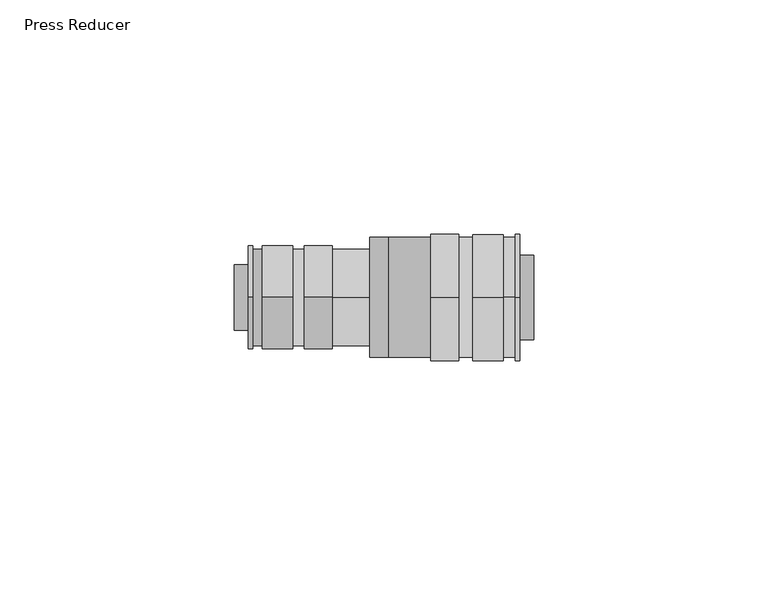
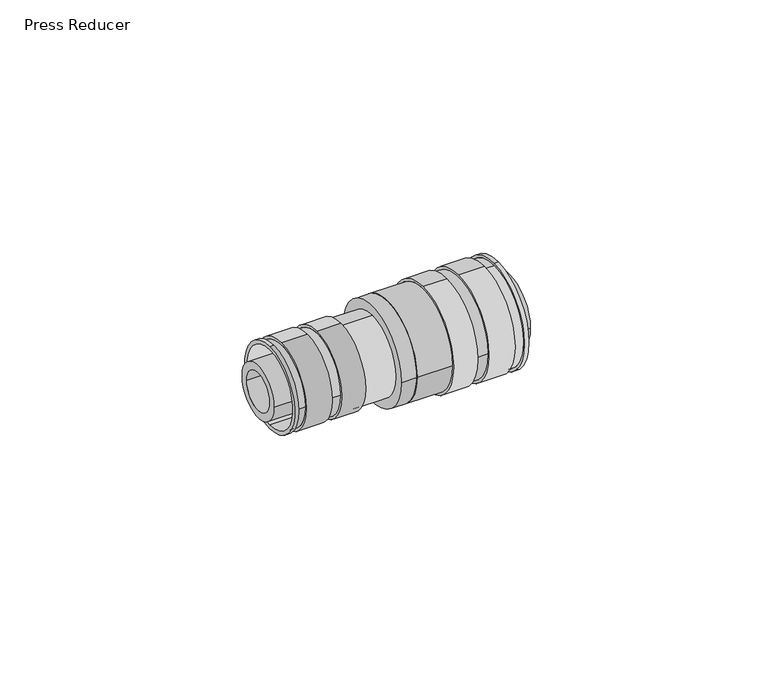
"""IFC4 building model written with IfcOpenShell, lengths in millimetres: pipe fitting geometry, Press Reducer : Superpipe Press Reducer."""

from ifc_helpers import new_model, si_unit, point, frame, frame_2d, origin, place, context, project, spatial, polyline, circle_curve, trimmed, segment, composite_curve, outline, extrude, source, transform, mapped, element, save
from ifc_brep_helpers import plane_surface, cylinder_surface, revolved_surface, advanced_brep


def press_reducer_d6b01df5(model_context):
    return source(origin(), model_context, "Body", "SolidModel", [
        advanced_brep(
        [(3.0, 0.0, -11.0), (3.0, 0.0, 11.0), (3.0, 0.0, -10.0), (3.0, 0.0, 10.0), (29.0, 0.0, -10.3), (29.0, 0.0, 10.3), (29.0, 0.0, -10.0), (29.0, 0.0, 10.0), (4.0, 0.0, -11.0), (4.0, -11.0, 0.0), (4.0, 0.0, 11.0), (21.0, 0.0, -11.0), (21.0, 0.0, 11.0), (15.0, 0.0, 11.0), (15.0, -11.0, 0.0), (15.0, 0.0, -11.0), (12.5, 0.0, -11.0), (12.5, -11.0, 0.0), (12.5, 0.0, 11.0), (6.0, 0.0, 11.0), (6.0, -11.0, 0.0), (6.0, 0.0, -11.0), (4.0, 11.0, 0.0), (15.0, 11.0, 0.0), (12.5, 11.0, 0.0), (6.0, 11.0, 0.0), (21.0, 0.0, -10.3), (21.0, 0.0, 10.3), (12.5, 10.3, 0.0), (12.5, -10.3, 0.0), (15.0, 10.3, 0.0), (15.0, -10.3, 0.0), (6.0, -10.3, 0.0), (6.0, 10.3, 0.0), (4.0, -10.3, 0.0), (4.0, 10.3, 0.0)],
        [
            (0, 1, circle_curve(frame((3.0, 0.0, 0.0), z_axis=(-1.0, 0.0, 0.0), x_axis=(0.0, 0.0, 1.0)), 11.0)),
            (1, 0, circle_curve(frame((3.0, 0.0, 0.0), z_axis=(-1.0, 0.0, 0.0), x_axis=(0.0, 0.0, 1.0)), 11.0)),
            (2, 3, circle_curve(frame((3.0, 0.0, 0.0), z_axis=(1.0, 0.0, 0.0), x_axis=(0.0, 0.0, 1.0)), 10.0)),
            (3, 2, circle_curve(frame((3.0, 0.0, 0.0), z_axis=(1.0, 0.0, 0.0), x_axis=(0.0, 0.0, 1.0)), 10.0)),
            (4, 5, circle_curve(frame((29.0, 0.0, 0.0), z_axis=(1.0, 0.0, 0.0), x_axis=(0.0, 0.0, 1.0)), 10.3)),
            (5, 4, circle_curve(frame((29.0, 0.0, 0.0), z_axis=(1.0, 0.0, 0.0), x_axis=(0.0, 0.0, 1.0)), 10.3)),
            (6, 7, circle_curve(frame((29.0, 0.0, 0.0), z_axis=(-1.0, 0.0, 0.0), x_axis=(0.0, 0.0, 1.0)), 10.0)),
            (7, 6, circle_curve(frame((29.0, 0.0, 0.0), z_axis=(-1.0, 0.0, 0.0), x_axis=(0.0, 0.0, 1.0)), 10.0)),
            (0, 8),
            (8, 9, circle_curve(frame((4.0, 0.0, 0.0), z_axis=(-1.0, 0.0, 0.0), x_axis=(0.0, 0.0, 1.0)), 11.0)),
            (9, 10, circle_curve(frame((4.0, 0.0, 0.0), z_axis=(-1.0, 0.0, 0.0), x_axis=(0.0, 0.0, 1.0)), 11.0)),
            (10, 1),
            (11, 12, circle_curve(frame((21.0, 0.0, 0.0), z_axis=(-1.0, 0.0, 0.0), x_axis=(0.0, 0.0, 1.0)), 11.0)),
            (12, 13),
            (13, 14, circle_curve(frame((15.0, 0.0, 0.0), z_axis=(1.0, 0.0, 0.0), x_axis=(0.0, 0.0, 1.0)), 11.0)),
            (14, 15, circle_curve(frame((15.0, 0.0, 0.0), z_axis=(1.0, 0.0, 0.0), x_axis=(0.0, 0.0, 1.0)), 11.0)),
            (15, 11),
            (16, 17, circle_curve(frame((12.5, 0.0, 0.0), z_axis=(-1.0, 0.0, 0.0), x_axis=(0.0, 0.0, 1.0)), 11.0)),
            (17, 18, circle_curve(frame((12.5, 0.0, 0.0), z_axis=(-1.0, 0.0, 0.0), x_axis=(0.0, 0.0, 1.0)), 11.0)),
            (18, 19),
            (19, 20, circle_curve(frame((6.0, 0.0, 0.0), z_axis=(1.0, 0.0, 0.0), x_axis=(0.0, 0.0, 1.0)), 11.0)),
            (20, 21, circle_curve(frame((6.0, 0.0, 0.0), z_axis=(1.0, 0.0, 0.0), x_axis=(0.0, 0.0, 1.0)), 11.0)),
            (21, 16),
            (10, 22, circle_curve(frame((4.0, 0.0, 0.0), z_axis=(-1.0, 0.0, 0.0), x_axis=(0.0, 0.0, 1.0)), 11.0)),
            (22, 8, circle_curve(frame((4.0, 0.0, 0.0), z_axis=(-1.0, 0.0, 0.0), x_axis=(0.0, 0.0, 1.0)), 11.0)),
            (12, 11, circle_curve(frame((21.0, 0.0, 0.0), z_axis=(-1.0, 0.0, 0.0), x_axis=(0.0, 0.0, 1.0)), 11.0)),
            (15, 23, circle_curve(frame((15.0, 0.0, 0.0), z_axis=(1.0, 0.0, 0.0), x_axis=(0.0, 0.0, 1.0)), 11.0)),
            (23, 13, circle_curve(frame((15.0, 0.0, 0.0), z_axis=(1.0, 0.0, 0.0), x_axis=(0.0, 0.0, 1.0)), 11.0)),
            (24, 16, circle_curve(frame((12.5, 0.0, 0.0), z_axis=(-1.0, 0.0, 0.0), x_axis=(0.0, 0.0, 1.0)), 11.0)),
            (21, 25, circle_curve(frame((6.0, 0.0, 0.0), z_axis=(1.0, 0.0, 0.0), x_axis=(0.0, 0.0, 1.0)), 11.0)),
            (25, 19, circle_curve(frame((6.0, 0.0, 0.0), z_axis=(1.0, 0.0, 0.0), x_axis=(0.0, 0.0, 1.0)), 11.0)),
            (18, 24, circle_curve(frame((12.5, 0.0, 0.0), z_axis=(-1.0, 0.0, 0.0), x_axis=(0.0, 0.0, 1.0)), 11.0)),
            (2, 6),
            (7, 3),
            (26, 27, circle_curve(frame((21.0, 0.0, 0.0), z_axis=(-1.0, 0.0, 0.0), x_axis=(0.0, 0.0, 1.0)), 10.3)),
            (27, 26, circle_curve(frame((21.0, 0.0, 0.0), z_axis=(-1.0, 0.0, 0.0), x_axis=(0.0, 0.0, 1.0)), 10.3)),
            (27, 5),
            (4, 26),
            (28, 29, circle_curve(frame((12.5, 0.0, 0.0), z_axis=(-1.0, 0.0, 0.0), x_axis=(0.0, -1.0, 0.0)), 10.3)),
            (29, 28, circle_curve(frame((12.5, 0.0, 0.0), z_axis=(-1.0, 0.0, 0.0), x_axis=(0.0, -1.0, 0.0)), 10.3)),
            (30, 31, circle_curve(frame((15.0, 0.0, 0.0), z_axis=(1.0, 0.0, 0.0), x_axis=(0.0, -1.0, 0.0)), 10.3)),
            (31, 30, circle_curve(frame((15.0, 0.0, 0.0), z_axis=(1.0, 0.0, 0.0), x_axis=(0.0, -1.0, 0.0)), 10.3)),
            (29, 31),
            (30, 28),
            (32, 33, circle_curve(frame((6.0, 0.0, 0.0), z_axis=(1.0, 0.0, 0.0), x_axis=(0.0, 1.0, 0.0)), 10.3)),
            (33, 32, circle_curve(frame((6.0, 0.0, 0.0), z_axis=(1.0, 0.0, 0.0), x_axis=(0.0, 1.0, 0.0)), 10.3)),
            (34, 35, circle_curve(frame((4.0, 0.0, 0.0), z_axis=(-1.0, 0.0, 0.0), x_axis=(0.0, 1.0, 0.0)), 10.3)),
            (35, 34, circle_curve(frame((4.0, 0.0, 0.0), z_axis=(-1.0, 0.0, 0.0), x_axis=(0.0, 1.0, 0.0)), 10.3)),
            (33, 35),
            (34, 32),
        ],
        [
            plane_surface(frame((3.0, 0.0, 11.0), z_axis=(-1.0, 0.0, 0.0), x_axis=(0.0, 1.0, 0.0))),
            plane_surface(frame((29.0, 0.0, 11.0), z_axis=(1.0, 0.0, 0.0), x_axis=(0.0, -1.0, 0.0))),
            cylinder_surface(frame((29.0, 0.0, 0.0), z_axis=(-1.0, 0.0, 0.0), x_axis=(0.0, 0.0, 1.0)), 11.0),
            revolved_surface(polyline([(29.0, 0.0, 10.0), (3.0, 0.0, 10.0)]), (29.0, 0.0, 0.0), (1.0, 0.0, 0.0)),
            plane_surface(frame((21.0, 0.0, 11.0), z_axis=(1.0, 0.0, 0.0), x_axis=(0.0, 1.0, 0.0))),
            cylinder_surface(frame((29.0, 0.0, 0.0), z_axis=(1.0, 0.0, 0.0), x_axis=(0.0, 0.0, 1.0)), 10.3),
            plane_surface(frame((12.5, -11.0, 0.0), z_axis=(1.0, 0.0, 0.0), x_axis=(0.0, 0.0, 1.0))),
            plane_surface(frame((15.0, -11.0, 0.0), z_axis=(-1.0, 0.0, 0.0), x_axis=(0.0, 0.0, -1.0))),
            cylinder_surface(frame((15.0, 0.0, 0.0), z_axis=(1.0, 0.0, 0.0), x_axis=(0.0, -1.0, 0.0)), 10.3),
            plane_surface(frame((6.0, 11.0, 0.0), z_axis=(-1.0, 0.0, 0.0), x_axis=(0.0, 0.0, 1.0))),
            plane_surface(frame((4.0, 11.0, 0.0), z_axis=(1.0, 0.0, 0.0), x_axis=(0.0, 0.0, -1.0))),
            cylinder_surface(frame((3.0, 0.0, 0.0), z_axis=(-1.0, 0.0, 0.0), x_axis=(0.0, 1.0, 0.0)), 10.3),
        ],
        [
            (0, [[1, 2], [3, 4]]),
            (1, [[5, 6], [7, 8]]),
            (2, [[-1, 9, 10, 11, 12]]),
            (2, [[13, 14, 15, 16, 17]]),
            (2, [[18, 19, 20, 21, 22, 23]]),
            (2, [[-2, -12, 24, 25, -9]]),
            (2, [[26, -17, 27, 28, -14]]),
            (2, [[29, -23, 30, 31, -20, 32]]),
            (3, [[-3, 33, -8, 34]]),
            (3, [[-4, -34, -7, -33]]),
            (4, [[-13, -26], [35, 36]]),
            (5, [[-36, 37, -5, 38]]),
            (5, [[-35, -38, -6, -37]]),
            (6, [[-18, -29, -32, -19], [39, 40]]),
            (7, [[-16, -15, -28, -27], [41, 42]]),
            (8, [[-40, 43, -41, 44]]),
            (8, [[-39, -44, -42, -43]]),
            (9, [[-22, -21, -31, -30], [45, 46]]),
            (10, [[-10, -25, -24, -11], [47, 48]]),
            (11, [[-46, 49, -47, 50]]),
            (11, [[-45, -50, -48, -49]]),
        ],
    ),
        advanced_brep(
        [(61.0, 0.0, -13.5), (61.0, 0.0, 13.5), (61.0, 0.0, -12.5), (61.0, 0.0, 12.5), (33.0, -12.8, 0.0), (33.0, 12.8, 0.0), (33.0, 0.0, -12.5), (33.0, 0.0, 12.5), (60.0, 0.0, -13.5), (60.0, 0.0, 13.5), (42.0, 0.0, -13.5), (42.0, 13.5, 0.0), (42.0, 0.0, 13.5), (48.0, 0.0, 13.5), (48.0, 13.5, 0.0), (48.0, 0.0, -13.5), (57.5, 0.0, 13.5), (57.5, 0.0, -13.5), (51.0, 0.0, -13.5), (51.0, 13.5, 0.0), (51.0, 0.0, 13.5), (42.0, -13.5, 0.0), (48.0, -13.5, 0.0), (51.0, -13.5, 0.0), (42.0, -12.8, 0.0), (42.0, 12.8, 0.0), (57.5, 0.0, 12.8), (57.5, 0.0, -12.8), (60.0, 0.0, 12.8), (60.0, 0.0, -12.8), (48.0, 12.8, 0.0), (48.0, -12.8, 0.0), (51.0, 12.8, 0.0), (51.0, -12.8, 0.0)],
        [
            (0, 1, circle_curve(frame((61.0, 0.0, 0.0), z_axis=(1.0, 0.0, 0.0), x_axis=(0.0, 0.0, 1.0)), 13.5)),
            (1, 0, circle_curve(frame((61.0, 0.0, 0.0), z_axis=(1.0, 0.0, 0.0), x_axis=(0.0, 0.0, 1.0)), 13.5)),
            (2, 3, circle_curve(frame((61.0, 0.0, 0.0), z_axis=(-1.0, 0.0, 0.0), x_axis=(0.0, 0.0, 1.0)), 12.5)),
            (3, 2, circle_curve(frame((61.0, 0.0, 0.0), z_axis=(-1.0, 0.0, 0.0), x_axis=(0.0, 0.0, 1.0)), 12.5)),
            (4, 5, circle_curve(frame((33.0, 0.0, 0.0), z_axis=(-1.0, 0.0, 0.0), x_axis=(0.0, 1.0, 0.0)), 12.8)),
            (5, 4, circle_curve(frame((33.0, 0.0, 0.0), z_axis=(-1.0, 0.0, 0.0), x_axis=(0.0, 1.0, 0.0)), 12.8)),
            (6, 7, circle_curve(frame((33.0, 0.0, 0.0), z_axis=(1.0, 0.0, 0.0), x_axis=(0.0, 0.0, 1.0)), 12.5)),
            (7, 6, circle_curve(frame((33.0, 0.0, 0.0), z_axis=(1.0, 0.0, 0.0), x_axis=(0.0, 0.0, 1.0)), 12.5)),
            (0, 8),
            (8, 9, circle_curve(frame((60.0, 0.0, 0.0), z_axis=(1.0, 0.0, 0.0), x_axis=(0.0, 0.0, 1.0)), 13.5)),
            (9, 1),
            (10, 11, circle_curve(frame((42.0, 0.0, 0.0), z_axis=(1.0, 0.0, 0.0), x_axis=(0.0, 0.0, 1.0)), 13.5)),
            (11, 12, circle_curve(frame((42.0, 0.0, 0.0), z_axis=(1.0, 0.0, 0.0), x_axis=(0.0, 0.0, 1.0)), 13.5)),
            (12, 13),
            (13, 14, circle_curve(frame((48.0, 0.0, 0.0), z_axis=(-1.0, 0.0, 0.0), x_axis=(0.0, 0.0, 1.0)), 13.5)),
            (14, 15, circle_curve(frame((48.0, 0.0, 0.0), z_axis=(-1.0, 0.0, 0.0), x_axis=(0.0, 0.0, 1.0)), 13.5)),
            (15, 10),
            (16, 17, circle_curve(frame((57.5, 0.0, 0.0), z_axis=(-1.0, 0.0, 0.0), x_axis=(0.0, 0.0, 1.0)), 13.5)),
            (17, 18),
            (18, 19, circle_curve(frame((51.0, 0.0, 0.0), z_axis=(1.0, 0.0, 0.0), x_axis=(0.0, 0.0, 1.0)), 13.5)),
            (19, 20, circle_curve(frame((51.0, 0.0, 0.0), z_axis=(1.0, 0.0, 0.0), x_axis=(0.0, 0.0, 1.0)), 13.5)),
            (20, 16),
            (9, 8, circle_curve(frame((60.0, 0.0, 0.0), z_axis=(1.0, 0.0, 0.0), x_axis=(0.0, 0.0, 1.0)), 13.5)),
            (21, 10, circle_curve(frame((42.0, 0.0, 0.0), z_axis=(1.0, 0.0, 0.0), x_axis=(0.0, 0.0, 1.0)), 13.5)),
            (15, 22, circle_curve(frame((48.0, 0.0, 0.0), z_axis=(-1.0, 0.0, 0.0), x_axis=(0.0, 0.0, 1.0)), 13.5)),
            (22, 13, circle_curve(frame((48.0, 0.0, 0.0), z_axis=(-1.0, 0.0, 0.0), x_axis=(0.0, 0.0, 1.0)), 13.5)),
            (12, 21, circle_curve(frame((42.0, 0.0, 0.0), z_axis=(1.0, 0.0, 0.0), x_axis=(0.0, 0.0, 1.0)), 13.5)),
            (17, 16, circle_curve(frame((57.5, 0.0, 0.0), z_axis=(-1.0, 0.0, 0.0), x_axis=(0.0, 0.0, 1.0)), 13.5)),
            (20, 23, circle_curve(frame((51.0, 0.0, 0.0), z_axis=(1.0, 0.0, 0.0), x_axis=(0.0, 0.0, 1.0)), 13.5)),
            (23, 18, circle_curve(frame((51.0, 0.0, 0.0), z_axis=(1.0, 0.0, 0.0), x_axis=(0.0, 0.0, 1.0)), 13.5)),
            (2, 6),
            (7, 3),
            (24, 25, circle_curve(frame((42.0, 0.0, 0.0), z_axis=(1.0, 0.0, 0.0), x_axis=(0.0, 1.0, 0.0)), 12.8)),
            (25, 24, circle_curve(frame((42.0, 0.0, 0.0), z_axis=(1.0, 0.0, 0.0), x_axis=(0.0, 1.0, 0.0)), 12.8)),
            (25, 5),
            (4, 24),
            (26, 27, circle_curve(frame((57.5, 0.0, 0.0), z_axis=(-1.0, 0.0, 0.0), x_axis=(0.0, 0.0, -1.0)), 12.8)),
            (27, 26, circle_curve(frame((57.5, 0.0, 0.0), z_axis=(-1.0, 0.0, 0.0), x_axis=(0.0, 0.0, -1.0)), 12.8)),
            (28, 29, circle_curve(frame((60.0, 0.0, 0.0), z_axis=(1.0, 0.0, 0.0), x_axis=(0.0, 0.0, -1.0)), 12.8)),
            (29, 28, circle_curve(frame((60.0, 0.0, 0.0), z_axis=(1.0, 0.0, 0.0), x_axis=(0.0, 0.0, -1.0)), 12.8)),
            (27, 29),
            (28, 26),
            (30, 31, circle_curve(frame((48.0, 0.0, 0.0), z_axis=(-1.0, 0.0, 0.0), x_axis=(0.0, -1.0, 0.0)), 12.8)),
            (31, 30, circle_curve(frame((48.0, 0.0, 0.0), z_axis=(-1.0, 0.0, 0.0), x_axis=(0.0, -1.0, 0.0)), 12.8)),
            (32, 33, circle_curve(frame((51.0, 0.0, 0.0), z_axis=(1.0, 0.0, 0.0), x_axis=(0.0, -1.0, 0.0)), 12.8)),
            (33, 32, circle_curve(frame((51.0, 0.0, 0.0), z_axis=(1.0, 0.0, 0.0), x_axis=(0.0, -1.0, 0.0)), 12.8)),
            (31, 33),
            (32, 30),
        ],
        [
            plane_surface(frame((61.0, 0.0, 13.5), z_axis=(1.0, 0.0, 0.0), x_axis=(0.0, -1.0, 0.0))),
            plane_surface(frame((33.0, 0.0, 13.5), z_axis=(-1.0, 0.0, 0.0), x_axis=(0.0, 1.0, 0.0))),
            cylinder_surface(frame((33.0, 0.0, 0.0), z_axis=(1.0, 0.0, 0.0), x_axis=(0.0, 0.0, 1.0)), 13.5),
            revolved_surface(polyline([(33.0, 0.0, 12.5), (61.0, 0.0, 12.5)]), (33.0, 0.0, 0.0), (-1.0, 0.0, 0.0)),
            plane_surface(frame((42.0, 13.5, 0.0), z_axis=(-1.0, 0.0, 0.0), x_axis=(0.0, 0.0, 1.0))),
            cylinder_surface(frame((33.0, 0.0, 0.0), z_axis=(-1.0, 0.0, 0.0), x_axis=(0.0, 1.0, 0.0)), 12.8),
            plane_surface(frame((57.5, 0.0, -13.5), z_axis=(1.0, 0.0, 0.0), x_axis=(0.0, -1.0, 0.0))),
            plane_surface(frame((60.0, 0.0, -13.5), z_axis=(-1.0, 0.0, 0.0), x_axis=(0.0, 1.0, 0.0))),
            cylinder_surface(frame((61.0, 0.0, 0.0), z_axis=(1.0, 0.0, 0.0), x_axis=(0.0, 0.0, -1.0)), 12.8),
            plane_surface(frame((48.0, -13.5, 0.0), z_axis=(1.0, 0.0, 0.0), x_axis=(0.0, 0.0, 1.0))),
            plane_surface(frame((51.0, -13.5, 0.0), z_axis=(-1.0, 0.0, 0.0), x_axis=(0.0, 0.0, -1.0))),
            cylinder_surface(frame((48.0, 0.0, 0.0), z_axis=(1.0, 0.0, 0.0), x_axis=(0.0, -1.0, 0.0)), 12.8),
        ],
        [
            (0, [[1, 2], [3, 4]]),
            (1, [[5, 6], [7, 8]]),
            (2, [[-1, 9, 10, 11]]),
            (2, [[12, 13, 14, 15, 16, 17]]),
            (2, [[18, 19, 20, 21, 22]]),
            (2, [[-2, -11, 23, -9]]),
            (2, [[24, -17, 25, 26, -14, 27]]),
            (2, [[28, -22, 29, 30, -19]]),
            (3, [[-3, 31, -8, 32]]),
            (3, [[-4, -32, -7, -31]]),
            (4, [[-12, -24, -27, -13], [33, 34]]),
            (5, [[-34, 35, -5, 36]]),
            (5, [[-33, -36, -6, -35]]),
            (6, [[-18, -28], [37, 38]]),
            (7, [[-10, -23], [39, 40]]),
            (8, [[-38, 41, -39, 42]]),
            (8, [[-37, -42, -40, -41]]),
            (9, [[-16, -15, -26, -25], [43, 44]]),
            (10, [[-20, -30, -29, -21], [45, 46]]),
            (11, [[-44, 47, -45, 48]]),
            (11, [[-43, -48, -46, -47]]),
        ],
    ),
        extrude(outline(composite_curve([segment(trimmed(circle_curve(frame_2d((-0.000673, 0.0)), 9.0), [point((-9.000673, 0.0))], [point((8.999327, 0.0))], False, "CARTESIAN"), True, "CONTINUOUS"), segment(trimmed(circle_curve(frame_2d((-0.000673, 0.0)), 9.0), [point((8.999327, 0.0))], [point((-9.000673, 0.0))], False, "CARTESIAN"), True, "CONTINUOUS")], self_intersect=False), holes=[composite_curve([segment(trimmed(circle_curve(frame_2d((-0.000673, 0.0)), 7.0), [point((6.999327, 0.0))], [point((-7.000673, 0.0))], True, "CARTESIAN"), True, "CONTINUOUS"), segment(trimmed(circle_curve(frame_2d((-0.000673, 0.0)), 7.0), [point((-7.000673, 0.0))], [point((6.999327, 0.0))], True, "CARTESIAN"), True, "CONTINUOUS")], self_intersect=False)]), frame((33.0, 0.0, 0.0), z_axis=(1.0, 0.0, 0.0), x_axis=(0.0, 1.0, 0.0)), (0.0, 0.0, 1.0), 31.0),
        extrude(outline(composite_curve([segment(trimmed(circle_curve(frame_2d((-0.000673, 0.0)), 12.8), [point((-12.800673, 0.0))], [point((12.799327, 0.0))], False, "CARTESIAN"), True, "CONTINUOUS"), segment(trimmed(circle_curve(frame_2d((-0.000673, 0.0)), 12.8), [point((12.799327, 0.0))], [point((-12.800673, 0.0))], False, "CARTESIAN"), True, "CONTINUOUS")], self_intersect=False), holes=[composite_curve([segment(trimmed(circle_curve(frame_2d((-0.000673, 0.0)), 7.0), [point((6.999327, 0.0))], [point((-7.000673, 0.0))], True, "CARTESIAN"), True, "CONTINUOUS"), segment(trimmed(circle_curve(frame_2d((-0.000673, 0.0)), 7.0), [point((-7.000673, 0.0))], [point((6.999327, 0.0))], True, "CARTESIAN"), True, "CONTINUOUS")], self_intersect=False)]), frame((29.0, 0.0, 0.0), z_axis=(1.0, 0.0, 0.0), x_axis=(0.0, 1.0, 0.0)), (0.0, 0.0, 1.0), 4.0),
        extrude(outline(composite_curve([segment(trimmed(circle_curve(frame_2d((-0.000673, 0.0)), 7.0), [point((-7.000673, 0.0))], [point((6.999327, 0.0))], False, "CARTESIAN"), True, "CONTINUOUS"), segment(trimmed(circle_curve(frame_2d((-0.000673, 0.0)), 7.0), [point((6.999327, 0.0))], [point((-7.000673, 0.0))], False, "CARTESIAN"), True, "CONTINUOUS")], self_intersect=False), holes=[composite_curve([segment(trimmed(circle_curve(frame_2d((-0.000673, 0.0)), 5.0), [point((4.999327, 0.0))], [point((-5.000673, 0.0))], True, "CARTESIAN"), True, "CONTINUOUS"), segment(trimmed(circle_curve(frame_2d((-0.000673, 0.0)), 5.0), [point((-5.000673, 0.0))], [point((4.999327, 0.0))], True, "CARTESIAN"), True, "CONTINUOUS")], self_intersect=False)]), frame((0.0, 0.0, 0.0), z_axis=(1.0, 0.0, 0.0), x_axis=(0.0, 1.0, 0.0)), (0.0, 0.0, 1.0), 29.0),
    ])


if __name__ == "__main__":
    model = new_model("IFC4")
    model_context = context("Model", 3, world=origin())
    ifc_project = project(units=[si_unit("LENGTHUNIT", "METRE", prefix="MILLI")], contexts=[model_context])
    site = spatial("IfcSite", under=ifc_project)
    building = spatial("IfcBuilding", under=site)
    placement = place(None, origin())
    press_reducer_shape = press_reducer_d6b01df5(model_context)
    element("IfcPipeFitting", 1, ObjectType="Press Reducer : Superpipe Press Reducer", at=placement, inside=building, context=model_context, shape_type="MappedRepresentation", body=[
        mapped(press_reducer_shape, transform((0.0, 0.0, 0.0), x_axis=(1.0, 0.0, 0.0), y_axis=(0.0, 1.0, 0.0), z_axis=(0.0, 0.0, 1.0))),
    ])
    save(model, "model.ifc")
